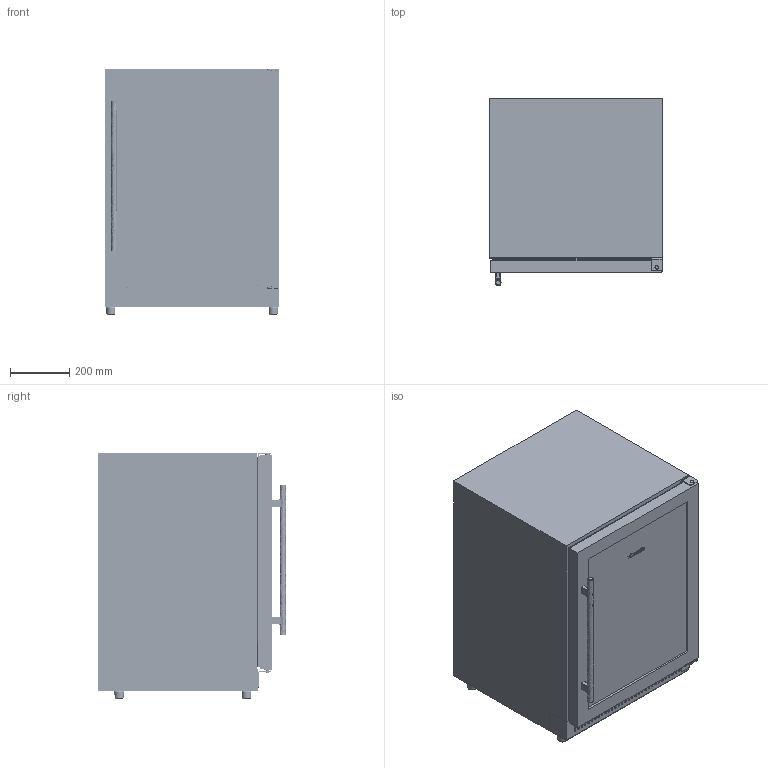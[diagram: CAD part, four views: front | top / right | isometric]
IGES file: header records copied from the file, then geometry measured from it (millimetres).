
Global section: file name: FS1-150-R.0_MOCKUP; native system: unknown; preprocessor: unknown; author: unknown; organization: unknown; date: 20260311.161825; units: millimetre
Bounding box: 585 x 631 x 829 mm (x, y, z)
Volume: 99528595.5 mm3; surface area: 6290996.5 mm2
Topology: 102 solids, 102 shells, 1224 faces, 3185 edges, 2152 vertices
Faces by surface type: bspline 1224
